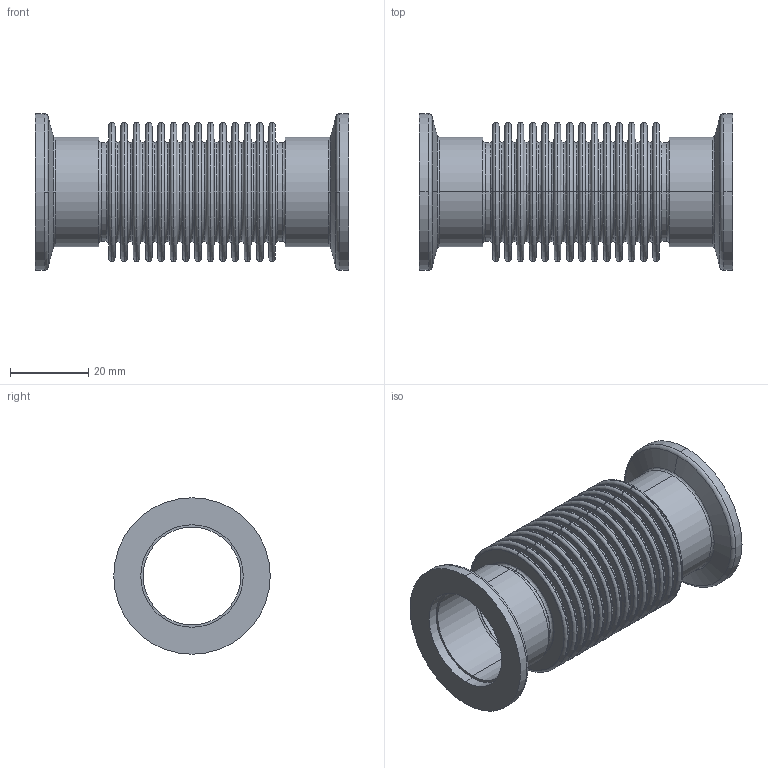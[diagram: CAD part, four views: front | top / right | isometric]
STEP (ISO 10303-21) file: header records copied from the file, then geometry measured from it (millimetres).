
FILE_DESCRIPTION((''),'2;1');
FILE_NAME('W:\211-328.stp','2003-10-10T13:53:45',('KAA'),(''),'Autodesk Inventor (R) 6.0','Autodesk Inventor (R) 6.0','');
FILE_SCHEMA(('CONFIG_CONTROL_DESIGN'));
Length unit declared in the file: millimetre
Products named in the file (1): 211-328
Bounding box: 80 x 40 x 40 mm (x, y, z)
Volume: 10681.9 mm3; surface area: 40900.3 mm2
Topology: 1 solids, 1 shells, 384 faces, 992 edges, 620 vertices
Faces by surface type: torus 120, bspline 120, cone 108, cylinder 24, plane 12
Entity records: 17043 total; most frequent: CARTESIAN_POINT 7277, DIRECTION 2382, ORIENTED_EDGE 1984, AXIS2_PLACEMENT_3D 1125, EDGE_CURVE 992, CIRCLE 860, VERTEX_POINT 620, EDGE_LOOP 396
